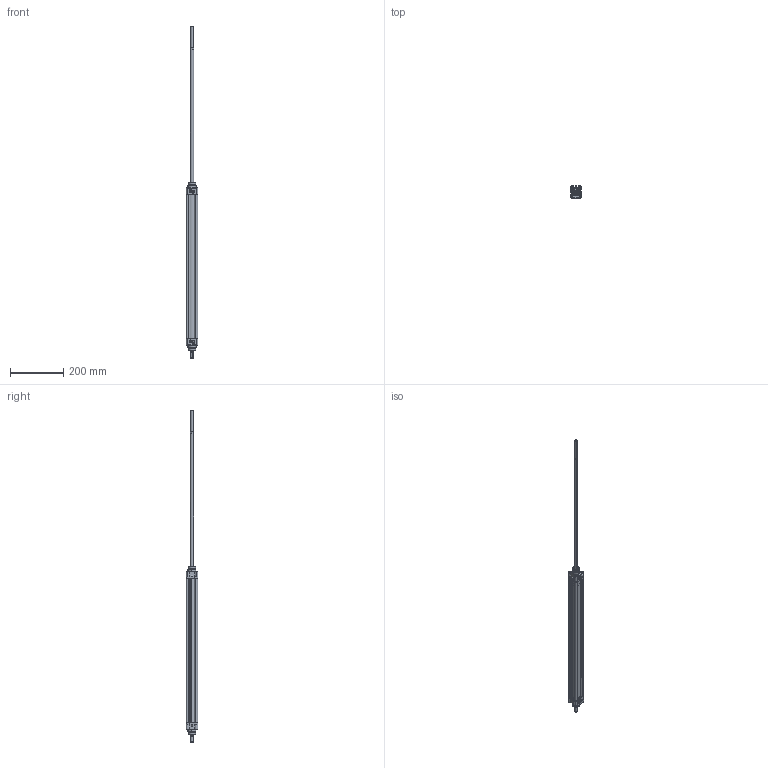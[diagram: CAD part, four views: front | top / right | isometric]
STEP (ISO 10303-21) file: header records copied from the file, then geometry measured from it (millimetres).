
FILE_DESCRIPTION (( 'STEP AP203' ), '1' );
FILE_NAME ('KDNT32X500CIFTMILLI-STROK AYARLI-CYLINDER.STEP', '2015-03-24T08:07:42', ( 'user' ), ( '' ), 'SwSTEP 2.0', 'SolidWorks 2013', '' );
FILE_SCHEMA (( 'CONFIG_CONTROL_DESIGN' ));
Length unit declared in the file: millimetre
Products named in the file (6): KDNT Piston Mili 32X500; KDNT 32x500 BORU; SAPLAMALI M尳 STROK AYARLI 32x500; KDNT32X500CIFTMILLI-STROK AYARLI-CYLINDER; 烰 KAPAK; ORTA PÝSTON ÇÝFT MÝLLÝ
Assembly tree (6 placements, depth 2):
  KDNT32X500CIFTMILLI-STROK AYARLI-CYLINDER
    烰 KAPAK  x2
    ORTA PÝSTON ÇÝFT MÝLLÝ
    KDNT Piston Mili 32X500
    KDNT 32x500 BORU
    SAPLAMALI M尳 STROK AYARLI 32x500
Bounding box: 44.45 x 44.65 x 1243 mm (x, y, z)
Volume: 528010.6 mm3; surface area: 295009.7 mm2
Topology: 8 solids, 10 shells, 777 faces, 1932 edges, 1210 vertices
Faces by surface type: cylinder 285, plane 206, cone 150, bspline 136
Entity records: 20791 total; most frequent: CARTESIAN_POINT 8847, ORIENTED_EDGE 2430, DIRECTION 2272, EDGE_CURVE 1215, AXIS2_PLACEMENT_3D 881, VERTEX_POINT 770, EDGE_LOOP 561, LINE 510
